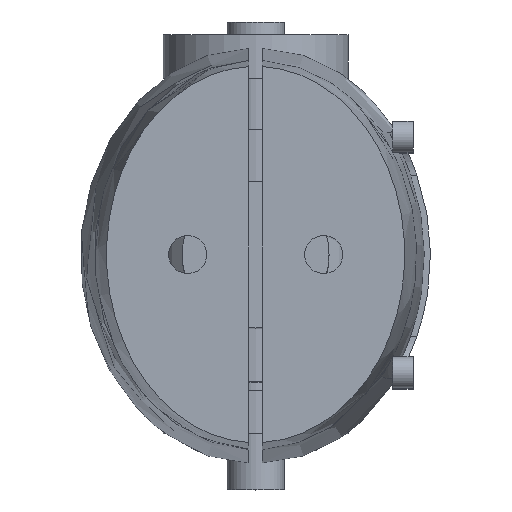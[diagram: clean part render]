
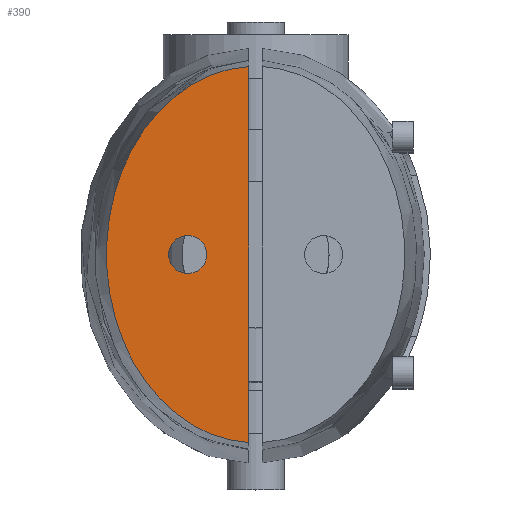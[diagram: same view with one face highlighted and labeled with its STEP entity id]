
A CAD part, top view. The second image highlights one B-rep face of the part: STEP entity #390.
In plain terms, the highlighted planar face has unit normal (0, 0, 1).
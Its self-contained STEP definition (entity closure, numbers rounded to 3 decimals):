
#86 = VERTEX_POINT('',#87);
#87 = CARTESIAN_POINT('',(-0.25,6.909,31.2));
#191 = VERTEX_POINT('',#192);
#192 = CARTESIAN_POINT('',(-0.25,-6.909,31.2));
#275 = EDGE_CURVE('',#86,#191,#276,.T.);
#276 = B_SPLINE_CURVE_WITH_KNOTS('',14,(#277,#278,#279,#280,#281,#282,
    #283,#284,#285,#286,#287,#288,#289,#290,#291),.UNSPECIFIED.,.T.,.F.,
  (15,15),(0.,1.),.PIECEWISE_BEZIER_KNOTS.);
#277 = CARTESIAN_POINT('',(0.,6.916,31.2));
#278 = CARTESIAN_POINT('',(-2.46,6.916,31.2));
#279 = CARTESIAN_POINT('',(-4.92,5.416,31.2));
#280 = CARTESIAN_POINT('',(-6.757,2.415,31.2));
#281 = CARTESIAN_POINT('',(-7.349,-1.636,31.2));
#282 = CARTESIAN_POINT('',(-6.298,-5.842,31.2));
#283 = CARTESIAN_POINT('',(-3.65,-9.053,31.2));
#284 = CARTESIAN_POINT('',(0.,-10.262,31.2));
#285 = CARTESIAN_POINT('',(3.65,-9.053,31.2));
#286 = CARTESIAN_POINT('',(6.298,-5.842,31.2));
#287 = CARTESIAN_POINT('',(7.349,-1.636,31.2));
#288 = CARTESIAN_POINT('',(6.757,2.415,31.2));
#289 = CARTESIAN_POINT('',(4.92,5.416,31.2));
#290 = CARTESIAN_POINT('',(2.46,6.916,31.2));
#291 = CARTESIAN_POINT('',(0.,6.916,31.2));
#379 = EDGE_CURVE('',#86,#191,#380,.T.);
#380 = LINE('',#381,#382);
#381 = CARTESIAN_POINT('',(-0.25,-14.042,31.2));
#382 = VECTOR('',#383,1.);
#383 = DIRECTION('',(0.,-1.,0.));
#390 = ADVANCED_FACE('',(#391,#395),#406,.F.);
#391 = FACE_BOUND('',#392,.F.);
#392 = EDGE_LOOP('',(#393,#394));
#393 = ORIENTED_EDGE('',*,*,#275,.F.);
#394 = ORIENTED_EDGE('',*,*,#379,.T.);
#395 = FACE_BOUND('',#396,.F.);
#396 = EDGE_LOOP('',(#397));
#397 = ORIENTED_EDGE('',*,*,#398,.T.);
#398 = EDGE_CURVE('',#399,#399,#401,.T.);
#399 = VERTEX_POINT('',#400);
#400 = CARTESIAN_POINT('',(-1.8,0.,31.2));
#401 = CIRCLE('',#402,0.7);
#402 = AXIS2_PLACEMENT_3D('',#403,#404,#405);
#403 = CARTESIAN_POINT('',(-2.5,0.,31.2));
#404 = DIRECTION('',(0.,0.,1.));
#405 = DIRECTION('',(1.,0.,-0.));
#406 = PLANE('',#407);
#407 = AXIS2_PLACEMENT_3D('',#408,#409,#410);
#408 = CARTESIAN_POINT('',(0.,6.916,31.2));
#409 = DIRECTION('',(0.,-0.,-1.));
#410 = DIRECTION('',(0.,-1.,0.));
